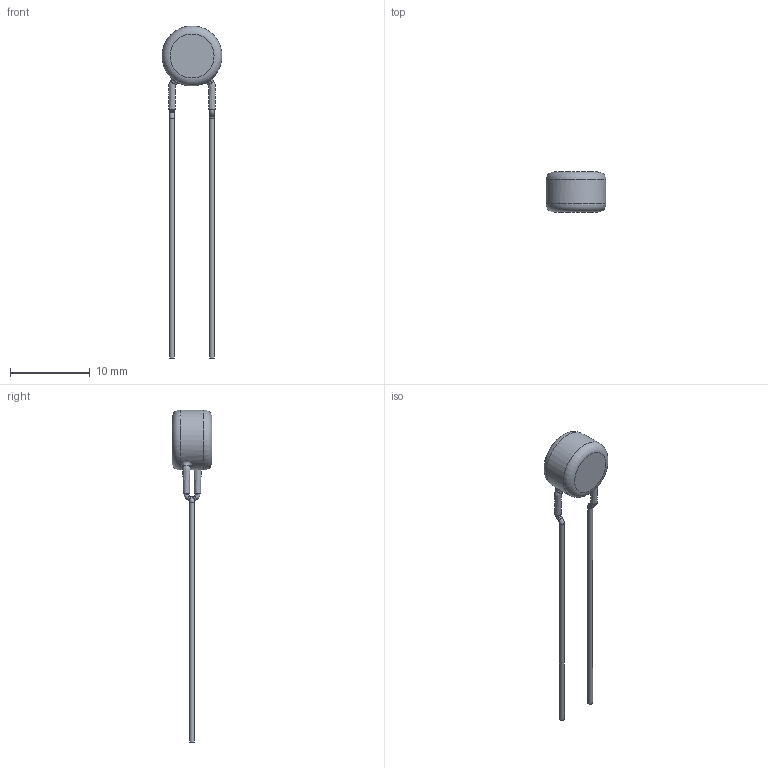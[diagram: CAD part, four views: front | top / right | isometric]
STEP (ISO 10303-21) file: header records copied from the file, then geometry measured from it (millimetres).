
FILE_DESCRIPTION(/* description */ (''),/* implementation_level */ '2;1');
FILE_NAME(/* name */ 'I:\Marketing\M6t1\3D-Models\Zchng-Werk-3\Upload for homepage\BCC\AY2\Inline Dia 0,6 LS 5\AY2150K29U2JS63V5.stp',/* time_stamp */ '2020-11-05T15:46:13+01:00',/* author */ ('truediger'),/* organization */ (''),/* preprocessor_version */ 'ST-DEVELOPER v18',/* originating_system */ 'Autodesk Inventor 2020',/* authorisation */ '');
FILE_SCHEMA (('AUTOMOTIVE_DESIGN { 1 0 10303 214 3 1 1 }'));
Length unit declared in the file: millimetre
Products named in the file (1): Bauteil7
Bounding box: 7.49 x 5 x 41.5 mm (x, y, z)
Volume: 233.5 mm3; surface area: 322.2 mm2
Topology: 1 solids, 1 shells, 29 faces, 77 edges, 52 vertices
Faces by surface type: cylinder 9, bspline 8, torus 6, plane 6
Full cylindrical faces by diameter (mm): 0.6 x4, 7.5 x1
Entity records: 2111 total; most frequent: CARTESIAN_POINT 1350, ORIENTED_EDGE 154, DIRECTION 141, EDGE_CURVE 77, AXIS2_PLACEMENT_3D 68, VERTEX_POINT 52, CIRCLE 44, EDGE_LOOP 31
